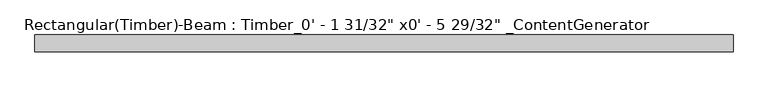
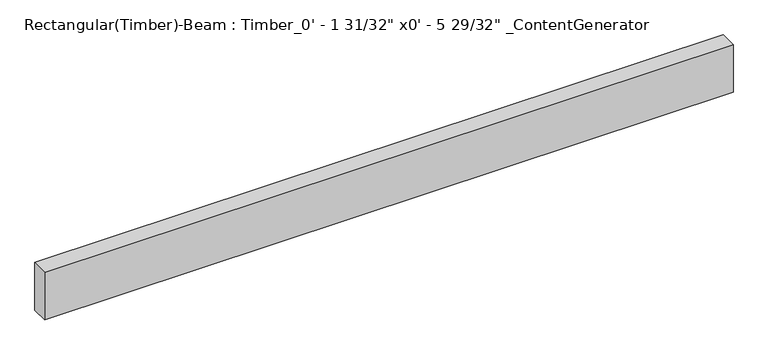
"""IFC4 building model written with IfcOpenShell, lengths in millimetres: beam geometry."""

from ifc_helpers import new_model, si_unit, frame, origin, place, context, project, spatial, polyline, outline, extrude, source, transform, mapped, element, save


def beam_1f2a4a11(model_context):
    return source(origin(), model_context, "Body", "SweptSolid", [
        extrude(outline(polyline([(1042.4153774, 25.4), (1042.4153774, -25.4), (-1042.4153774, -25.4), (-1042.4153774, 25.4), (1042.4153774, 25.4)])), frame((0.0, 0.0, -76.2), z_axis=(0.0, 0.0, 1.0), x_axis=(1.0, 0.0, 0.0)), (0.0, 0.0, 1.0), 152.4),
    ])


if __name__ == "__main__":
    model = new_model("IFC4")
    model_context = context("Model", 3, world=origin())
    ifc_project = project(units=[si_unit("LENGTHUNIT", "METRE", prefix="MILLI")], contexts=[model_context])
    site = spatial("IfcSite", under=ifc_project)
    building = spatial("IfcBuilding", under=site)
    placement = place(None, origin())
    beam_shape = beam_1f2a4a11(model_context)
    element("IfcBeam", 1, ObjectType="Rectangular(Timber)-Beam : Timber_0' - 1 31/32\" x0' - 5 29/32\" _ContentGenerator", at=placement, inside=building, context=model_context, shape_type="MappedRepresentation", body=[
        mapped(beam_shape, transform((0.0, 0.0, 0.0), x_axis=(1.0, 0.0, 0.0), y_axis=(0.0, 1.0, 0.0), z_axis=(0.0, 0.0, 1.0))),
    ])
    save(model, "model.ifc")
